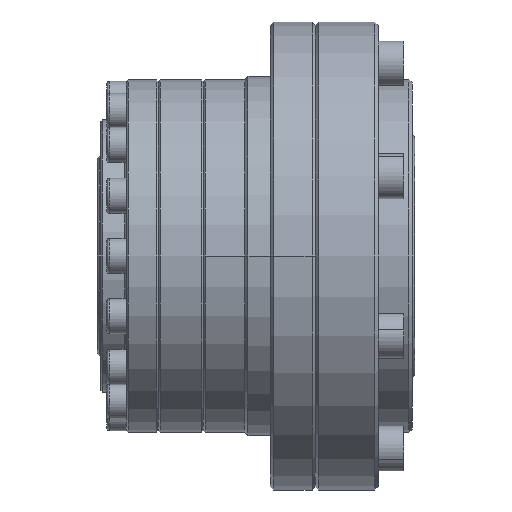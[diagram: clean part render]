
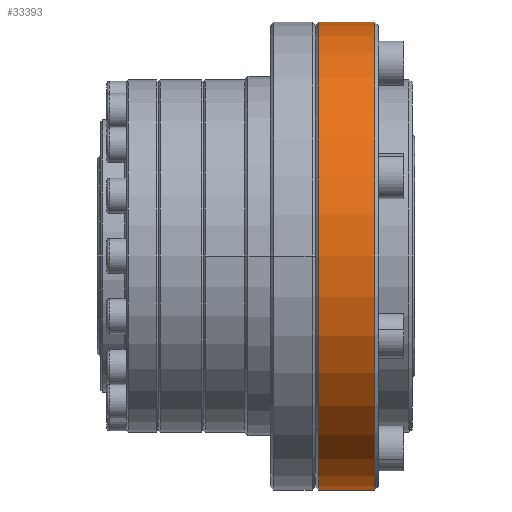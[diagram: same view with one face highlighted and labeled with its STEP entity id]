
A CAD part, front view. The second image highlights one B-rep face of the part: STEP entity #33393.
In plain terms, the highlighted cylindrical face has radius 36.5 mm (diameter 73 mm), a partial arc.
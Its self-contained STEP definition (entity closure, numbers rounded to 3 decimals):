
#1687 = VECTOR ( 'NONE', #21297, 1000. ) ;
#2043 = DIRECTION ( 'NONE',  ( 0., 0., 1. ) ) ;
#2052 = EDGE_CURVE ( 'NONE', #14557, #10672, #6347, .T. ) ;
#2221 = CARTESIAN_POINT ( 'NONE',  ( 17.295, 10.916, 0. ) ) ;
#2878 = LINE ( 'NONE', #8706, #1687 ) ;
#3232 = EDGE_CURVE ( 'NONE', #14557, #32546, #5390, .T. ) ;
#5390 = LINE ( 'NONE', #20690, #33591 ) ;
#6347 = CIRCLE ( 'NONE', #40100, 36.5 ) ;
#8706 = CARTESIAN_POINT ( 'NONE',  ( 7.995, 10.916, 36.5 ) ) ;
#8850 = DIRECTION ( 'NONE',  ( 0., 0., 1. ) ) ;
#9054 = DIRECTION ( 'NONE',  ( -1., 0., 0. ) ) ;
#10672 = VERTEX_POINT ( 'NONE', #26835 ) ;
#11772 = CARTESIAN_POINT ( 'NONE',  ( 8.495, 10.916, 36.5 ) ) ;
#13168 = AXIS2_PLACEMENT_3D ( 'NONE', #30387, #20658, #17346 ) ;
#14557 = VERTEX_POINT ( 'NONE', #15596 ) ;
#14667 = FACE_OUTER_BOUND ( 'NONE', #32009, .T. ) ;
#15164 = EDGE_CURVE ( 'NONE', #37229, #32546, #34985, .T. ) ;
#15596 = CARTESIAN_POINT ( 'NONE',  ( 17.295, 10.916, -36.5 ) ) ;
#17346 = DIRECTION ( 'NONE',  ( 0., 0., -1. ) ) ;
#17577 = AXIS2_PLACEMENT_3D ( 'NONE', #18560, #31198, #2043 ) ;
#17969 = ORIENTED_EDGE ( 'NONE', *, *, #3232, .F. ) ;
#18560 = CARTESIAN_POINT ( 'NONE',  ( 7.995, 10.916, 0. ) ) ;
#20658 = DIRECTION ( 'NONE',  ( 1., 0., 0. ) ) ;
#20690 = CARTESIAN_POINT ( 'NONE',  ( 7.995, 10.916, -36.5 ) ) ;
#21100 = DIRECTION ( 'NONE',  ( -1., 0., 0. ) ) ;
#21297 = DIRECTION ( 'NONE',  ( -1., 0., 0. ) ) ;
#26516 = ORIENTED_EDGE ( 'NONE', *, *, #15164, .T. ) ;
#26835 = CARTESIAN_POINT ( 'NONE',  ( 17.295, 10.916, 36.5 ) ) ;
#27588 = EDGE_CURVE ( 'NONE', #10672, #37229, #2878, .T. ) ;
#29634 = ORIENTED_EDGE ( 'NONE', *, *, #2052, .T. ) ;
#30387 = CARTESIAN_POINT ( 'NONE',  ( 8.495, 10.916, 0. ) ) ;
#30989 = CYLINDRICAL_SURFACE ( 'NONE', #17577, 36.5 ) ;
#31198 = DIRECTION ( 'NONE',  ( -1., 0., 0. ) ) ;
#31706 = CARTESIAN_POINT ( 'NONE',  ( 8.495, 10.916, -36.5 ) ) ;
#32009 = EDGE_LOOP ( 'NONE', ( #17969, #29634, #32259, #26516 ) ) ;
#32259 = ORIENTED_EDGE ( 'NONE', *, *, #27588, .T. ) ;
#32546 = VERTEX_POINT ( 'NONE', #31706 ) ;
#33393 = ADVANCED_FACE ( 'NONE', ( #14667 ), #30989, .T. ) ;
#33591 = VECTOR ( 'NONE', #21100, 1000. ) ;
#34985 = CIRCLE ( 'NONE', #13168, 36.5 ) ;
#37229 = VERTEX_POINT ( 'NONE', #11772 ) ;
#40100 = AXIS2_PLACEMENT_3D ( 'NONE', #2221, #9054, #8850 ) ;
